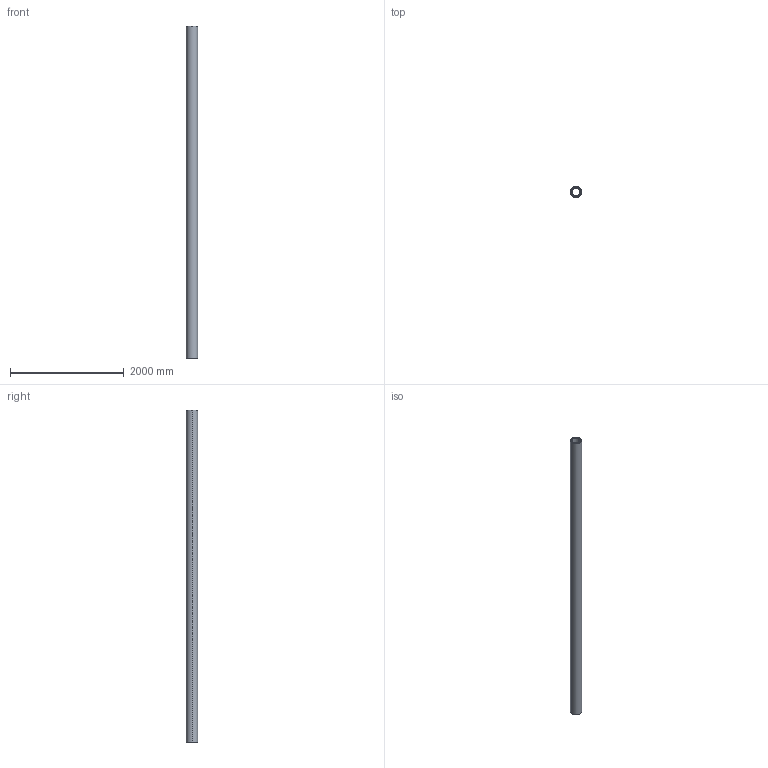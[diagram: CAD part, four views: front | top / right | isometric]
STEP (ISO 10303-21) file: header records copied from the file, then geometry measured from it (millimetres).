
FILE_DESCRIPTION (( 'STEP AP214' ), '1' );
FILE_NAME ('KP_200-160SCEC.STEP', '2023-04-04T09:44:13', ( '' ), ( '' ), 'SwSTEP 2.0', 'SolidWorks 2022', '' );
FILE_SCHEMA (( 'AUTOMOTIVE_DESIGN' ));
Length unit declared in the file: millimetre
Products named in the file (1): KP_200-160SCEC
Bounding box: 200 x 200 x 5845 mm (x, y, z)
Volume: 51487837.7 mm3; surface area: 12618040.1 mm2
Topology: 2 solids, 2 shells, 12 faces, 24 edges, 16 vertices
Faces by surface type: cylinder 8, plane 4
Entity records: 375 total; most frequent: DIRECTION 66, CARTESIAN_POINT 53, ORIENTED_EDGE 48, AXIS2_PLACEMENT_3D 29, EDGE_CURVE 24, VERTEX_POINT 16, CIRCLE 16, EDGE_LOOP 16
